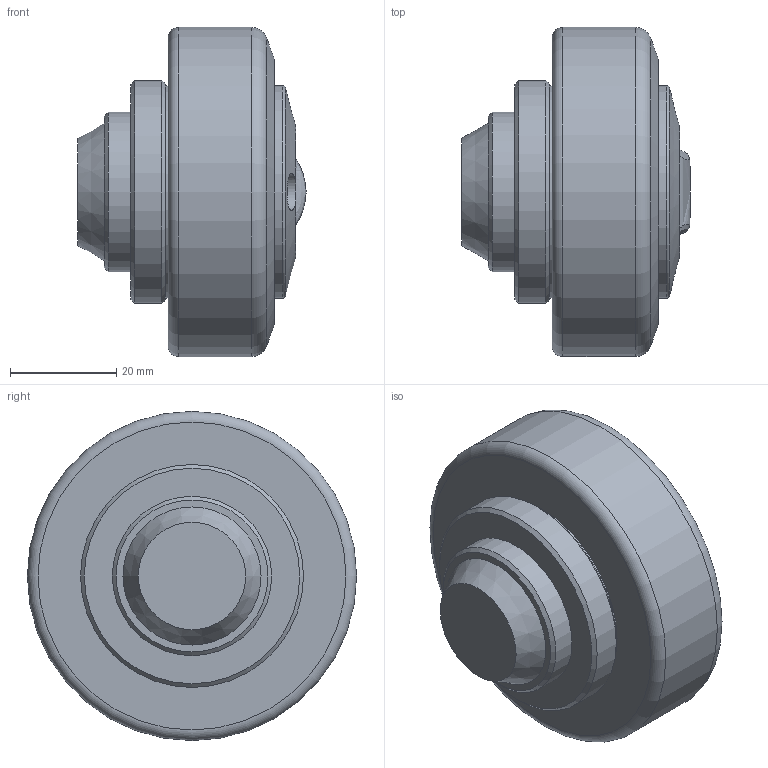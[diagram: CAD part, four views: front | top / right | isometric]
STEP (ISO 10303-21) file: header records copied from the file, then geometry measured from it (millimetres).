
FILE_DESCRIPTION((''),'2;1');
FILE_NAME('C:\Users\cad\Desktop\400-0072.ipt.stp','2018-05-03T13:49:35',('luca tedesco'),(''),'Autodesk Inventor 2013','Autodesk Inventor 2013','');
FILE_SCHEMA(('AUTOMOTIVE_DESIGN { 1 0 10303 214 1 1 1 1 }'));
Length unit declared in the file: millimetre
Products named in the file (1): 400-0072
Bounding box: 43 x 62 x 62 mm (x, y, z)
Volume: 78392.3 mm3; surface area: 11373.1 mm2
Topology: 1 solids, 1 shells, 42 faces, 92 edges, 60 vertices
Faces by surface type: plane 23, cylinder 7, cone 6, torus 3, bspline 3
Full cylindrical faces by diameter (mm): 7 x2, 30 x1, 40 x2, 42 x1, 62 x1
Entity records: 1375 total; most frequent: CARTESIAN_POINT 507, DIRECTION 166, ORIENTED_EDGE 146, EDGE_CURVE 73, EDGE_LOOP 66, AXIS2_PLACEMENT_3D 65, VERTEX_POINT 57, FACE_OUTER_BOUND 42
